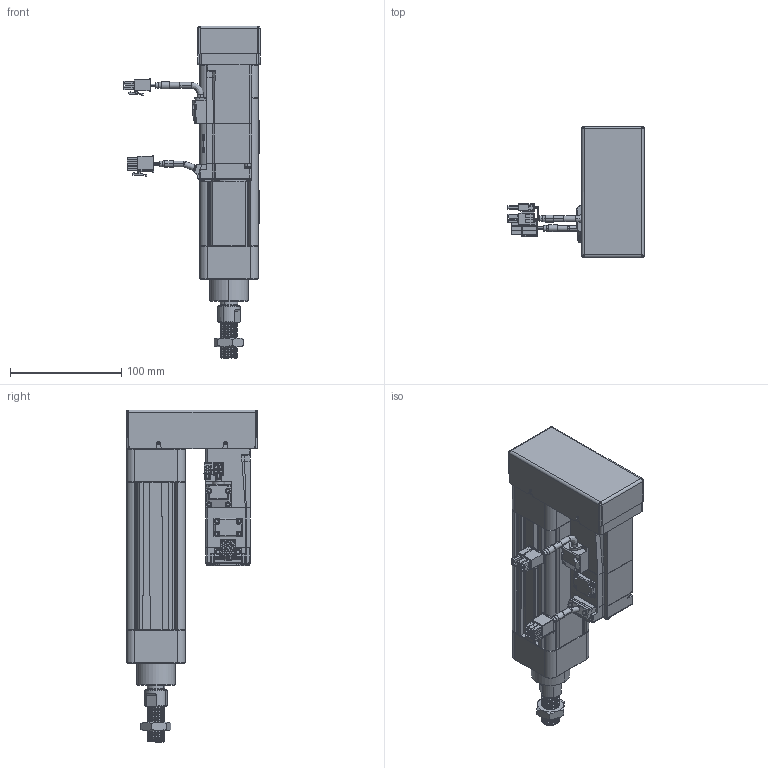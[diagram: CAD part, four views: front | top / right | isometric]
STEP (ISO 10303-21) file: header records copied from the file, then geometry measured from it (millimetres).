
FILE_DESCRIPTION (( 'STEP AP203' ), '1' );
FILE_NAME ('VEC50-10-C-50-MF-ZP10B-MS2.STEP', '2019-01-26T02:49:42', ( 'vobosh 6' ), ( 'Microsoft' ), 'SwSTEP 2.0', 'SolidWorks 2016', '' );
FILE_SCHEMA (( 'CONFIG_CONTROL_DESIGN' ));
Length unit declared in the file: millimetre
Products named in the file (12): VEC50-MF-200-011-X1; CS1-M; 鞠褒蹟譫M16x1.5; VEC50-MF-200-004-X1; VEC50-MF-200-001-X1; MHMF012L1V2; VEC50-MF-200-002-X1; VEC50-MF-200-005-X1; VEC50-MF-200-003-X1; VEC50-10-C-50-MF-ZP10B-MS2; 带尾螺母M6x9x45（镀镍）; 柈ч肣薦え耳9x耳8.5x4.4
Assembly tree (20 placements, depth 2):
  VEC50-10-C-50-MF-ZP10B-MS2
    VEC50-MF-200-001-X1
    VEC50-MF-200-002-X1
    VEC50-MF-200-003-X1
    带尾螺母M6x9x45（镀镍）  x8
    柈ч肣薦え耳9x耳8.5x4.4  x2
    VEC50-MF-200-011-X1
    CS1-M  x2
    鞠褒蹟譫M16x1.5
    VEC50-MF-200-004-X1
    MHMF012L1V2
    VEC50-MF-200-005-X1
Bounding box: 122.5 x 118 x 299 mm (x, y, z)
Volume: 575341.3 mm3; surface area: 209332.7 mm2
Topology: 27 solids, 27 shells, 1970 faces, 4861 edges, 3048 vertices
Faces by surface type: plane 902, cylinder 703, cone 239, bspline 117, torus 9
Entity records: 59744 total; most frequent: CARTESIAN_POINT 16772, DIRECTION 8631, ORIENTED_EDGE 8630, EDGE_CURVE 4315, AXIS2_PLACEMENT_3D 2988, VERTEX_POINT 2755, LINE 2655, VECTOR 2655
